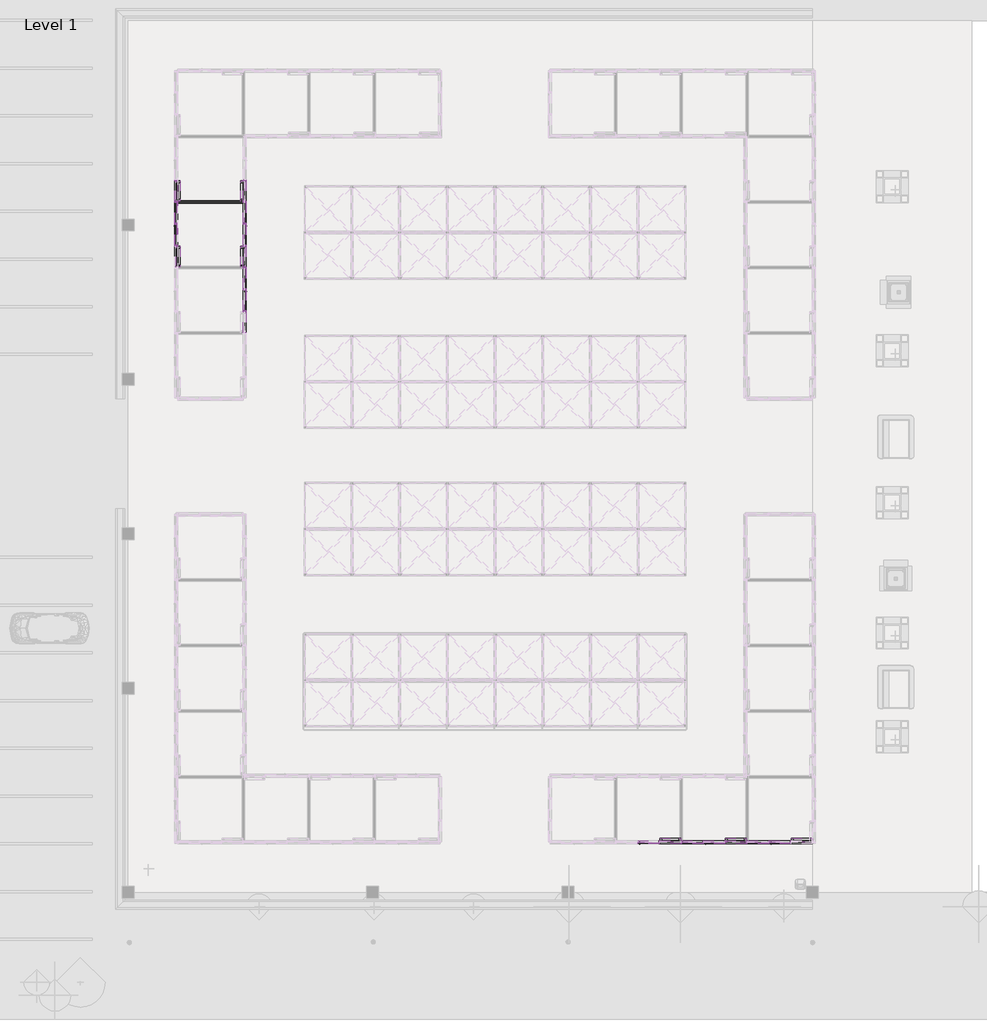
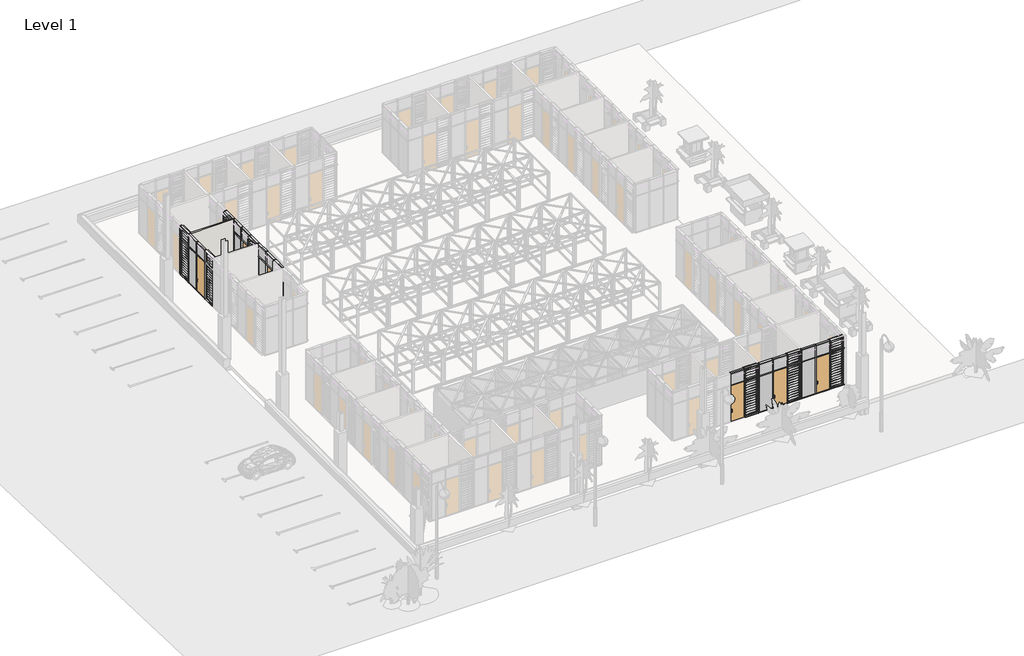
# One storey, part 6 of 32: 89 members, 30 plates, 6 doors, 1 wall.
"""IFC4 building model written with IfcOpenShell, lengths in millimetres."""

from ifc_helpers import new_model, si_unit, frame, origin, place, context, project, spatial, polyline, outline, extrude, transform, mapped, element, save
from components import curtain_wall_door_single_glass_nz_curtain_wall_door_single_2bf20aac, curtain_wall_door_single_glass_nz_curtain_wall_door_single_ff8afd41, rectangular_mullion_50x150mm_c4504768, rectangular_mullion_50x150mm_6c7cb899, rectangular_mullion_50x150mm_b0af8bb0, rectangular_mullion_50x150mm_bbc1c4ea, rectangular_mullion_50x150mm_1a36453b, rectangular_mullion_50x150mm_0d540e17, rectangular_mullion_50x150mm_108cdc6f, rectangular_mullion_50x150mm_52418214, rectangular_mullion_50x150mm_7b3c9b78, curtain_wall_panel_louver_20805_curtain_wall_panel_louver_4af505d4, curtain_wall_panel_louver_20805_curtain_wall_panel_louver_14332c5b, curtain_wall_panel_louver_20805_curtain_wall_panel_louver_e74f52fb, curtain_wall_panel_glass_louver_20805_curtain_wall_panel_036772b2, curtain_wall_panel_glass_louver_20805_curtain_wall_panel_0f8e40a1, curtain_wall_panel_glass_louver_20805_curtain_wall_panel_3228bad0, system_panel_glazed_a5e8ce8b, system_panel_glazed_53fe5bbb, system_panel_solid_585523e5, system_panel_solid_10c0fb46

model = new_model("IFC4")

# Units and contexts
model_context = context("Model", 3, world=origin())
ifc_project = project(units=[si_unit("LENGTHUNIT", "METRE", prefix="MILLI")], contexts=[model_context])

# Site, building, storey
site = spatial("IfcSite", under=ifc_project)
building = spatial("IfcBuilding", under=site)
storey = spatial("IfcBuildingStorey", under=building, Name="Level 1", Elevation=2800.0)

# Doors
placement = place(None, origin())
curtain_wall_door_single_glass_nz_curtain_wall_door_single_shape = curtain_wall_door_single_glass_nz_curtain_wall_door_single_2bf20aac(model_context)
element("IfcDoor", 1, ObjectType="Curtain Wall Door-Single-Glass (NZ) : Curtain Wall Door-Single-Glass (NZ)", at=placement, inside=storey, context=model_context, shape_type="MappedRepresentation", body=[
    mapped(curtain_wall_door_single_glass_nz_curtain_wall_door_single_shape, transform((-83784.8408447, -6055.9199597, 2850.0), x_axis=(0.0, -1.0, 0.0), y_axis=(1.0, 0.0, 0.0), z_axis=(0.0, 0.0, 1.0))),
])
element("IfcDoor", 2, ObjectType="Curtain Wall Door-Single-Glass (NZ) : Curtain Wall Door-Single-Glass (NZ)", at=placement, inside=storey, context=model_context, shape_type="MappedRepresentation", body=[
    mapped(curtain_wall_door_single_glass_nz_curtain_wall_door_single_shape, transform((-83784.8408447, -2755.9199596, 2850.0), x_axis=(0.0, -1.0, 0.0), y_axis=(1.0, 0.0, 0.0), z_axis=(0.0, 0.0, 1.0))),
])
curtain_wall_door_single_glass_nz_curtain_wall_door_single_2_shape = curtain_wall_door_single_glass_nz_curtain_wall_door_single_ff8afd41(model_context)
element("IfcDoor", 3, ObjectType="Curtain Wall Door-Single-Glass (NZ) : Curtain Wall Door-Single-Glass (NZ)", at=placement, inside=storey, context=model_context, shape_type="MappedRepresentation", body=[
    mapped(curtain_wall_door_single_glass_nz_curtain_wall_door_single_2_shape, transform((-60180.3056755, -33305.9199596, 2850.0), x_axis=(1.0, 0.0, 0.0), y_axis=(0.0, 1.0, 0.0), z_axis=(0.0, 0.0, 1.0))),
])
element("IfcDoor", 4, ObjectType="Curtain Wall Door-Single-Glass (NZ) : Curtain Wall Door-Single-Glass (NZ)", at=placement, inside=storey, context=model_context, shape_type="MappedRepresentation", body=[
    mapped(curtain_wall_door_single_glass_nz_curtain_wall_door_single_2_shape, transform((-63480.3056756, -33305.9199596, 2850.0), x_axis=(1.0, 0.0, 0.0), y_axis=(0.0, 1.0, 0.0), z_axis=(0.0, 0.0, 1.0))),
])
element("IfcDoor", 5, ObjectType="Curtain Wall Door-Single-Glass (NZ) : Curtain Wall Door-Single-Glass (NZ)", at=placement, inside=storey, context=model_context, shape_type="MappedRepresentation", body=[
    mapped(curtain_wall_door_single_glass_nz_curtain_wall_door_single_2_shape, transform((-56880.3056756, -33305.9199596, 2850.0), x_axis=(1.0, 0.0, 0.0), y_axis=(0.0, 1.0, 0.0), z_axis=(0.0, 0.0, 1.0))),
])
element("IfcDoor", 6, ObjectType="Curtain Wall Door-Single-Glass (NZ) : Curtain Wall Door-Single-Glass (NZ)", at=placement, inside=storey, context=model_context, shape_type="MappedRepresentation", body=[
    mapped(curtain_wall_door_single_glass_nz_curtain_wall_door_single_2_shape, transform((-87234.8408447, -2755.9199596, 2850.0), x_axis=(0.0, -1.0, 0.0), y_axis=(1.0, 0.0, 0.0), z_axis=(0.0, 0.0, 1.0))),
])

# Members
rectangular_mullion_50x150mm_shape = rectangular_mullion_50x150mm_c4504768(model_context)
element("IfcMember", 7, ObjectType="Rectangular Mullion : 50x150mm", at=placement, inside=storey, context=model_context, shape_type="MappedRepresentation", body=[
    mapped(rectangular_mullion_50x150mm_shape, transform((-83784.8408447, -5480.9199597, 5800.0), x_axis=(0.0, 0.0, 1.0), y_axis=(-1.0, 0.0, 0.0), z_axis=(0.0, -1.0, 0.0))),
])
element("IfcMember", 8, ObjectType="Rectangular Mullion : 50x150mm", at=placement, inside=storey, context=model_context, shape_type="MappedRepresentation", body=[
    mapped(rectangular_mullion_50x150mm_shape, transform((-83784.8408447, -6580.9199596, 5800.0), x_axis=(0.0, 0.0, 1.0), y_axis=(-1.0, 0.0, 0.0), z_axis=(0.0, -1.0, 0.0))),
])
element("IfcMember", 9, ObjectType="Rectangular Mullion : 50x150mm", at=placement, inside=storey, context=model_context, shape_type="MappedRepresentation", body=[
    mapped(rectangular_mullion_50x150mm_shape, transform((-83784.8408447, -4380.9199596, 5800.0), x_axis=(0.0, 0.0, 1.0), y_axis=(-1.0, 0.0, 0.0), z_axis=(0.0, -1.0, 0.0))),
])
element("IfcMember", 10, ObjectType="Rectangular Mullion : 50x150mm", at=placement, inside=storey, context=model_context, shape_type="MappedRepresentation", body=[
    mapped(rectangular_mullion_50x150mm_shape, transform((-83784.8408447, -3280.9199596, 5800.0), x_axis=(0.0, 0.0, 1.0), y_axis=(-1.0, 0.0, 0.0), z_axis=(0.0, -1.0, 0.0))),
])
element("IfcMember", 11, ObjectType="Rectangular Mullion : 50x150mm", at=placement, inside=storey, context=model_context, shape_type="MappedRepresentation", body=[
    mapped(rectangular_mullion_50x150mm_shape, transform((-83784.8408447, -1080.9199596, 5800.0), x_axis=(0.0, 0.0, 1.0), y_axis=(-1.0, 0.0, 0.0), z_axis=(0.0, -1.0, 0.0))),
])
element("IfcMember", 12, ObjectType="Rectangular Mullion : 50x150mm", at=placement, inside=storey, context=model_context, shape_type="MappedRepresentation", body=[
    mapped(rectangular_mullion_50x150mm_shape, transform((-83784.8408447, -2180.9199596, 5800.0), x_axis=(0.0, 0.0, 1.0), y_axis=(-1.0, 0.0, 0.0), z_axis=(0.0, -1.0, 0.0))),
])
rectangular_mullion_50x150mm_2_shape = rectangular_mullion_50x150mm_6c7cb899(model_context)
element("IfcMember", 13, ObjectType="Rectangular Mullion : 50x150mm", at=placement, inside=storey, context=model_context, shape_type="MappedRepresentation", body=[
    mapped(rectangular_mullion_50x150mm_2_shape, transform((-83784.8408447, -5505.9199597, 2800.0), x_axis=(0.0, -1.0, 0.0), y_axis=(-1.0, 0.0, 0.0), z_axis=(0.0, 0.0, -1.0))),
])
element("IfcMember", 14, ObjectType="Rectangular Mullion : 50x150mm", at=placement, inside=storey, context=model_context, shape_type="MappedRepresentation", body=[
    mapped(rectangular_mullion_50x150mm_2_shape, transform((-83784.8408447, -6605.9199596, 2800.0), x_axis=(0.0, -1.0, 0.0), y_axis=(-1.0, 0.0, 0.0), z_axis=(0.0, 0.0, -1.0))),
])
element("IfcMember", 15, ObjectType="Rectangular Mullion : 50x150mm", at=placement, inside=storey, context=model_context, shape_type="MappedRepresentation", body=[
    mapped(rectangular_mullion_50x150mm_2_shape, transform((-83784.8408447, -4405.9199596, 2800.0), x_axis=(0.0, -1.0, 0.0), y_axis=(-1.0, 0.0, 0.0), z_axis=(0.0, 0.0, -1.0))),
])
element("IfcMember", 16, ObjectType="Rectangular Mullion : 50x150mm", at=placement, inside=storey, context=model_context, shape_type="MappedRepresentation", body=[
    mapped(rectangular_mullion_50x150mm_2_shape, transform((-83784.8408447, -7705.9199596, 2800.0), x_axis=(0.0, -1.0, 0.0), y_axis=(-1.0, 0.0, 0.0), z_axis=(0.0, 0.0, -1.0))),
])
element("IfcMember", 17, ObjectType="Rectangular Mullion : 50x150mm", at=placement, inside=storey, context=model_context, shape_type="MappedRepresentation", body=[
    mapped(rectangular_mullion_50x150mm_2_shape, transform((-83784.8408447, -3305.9199596, 2800.0), x_axis=(0.0, -1.0, 0.0), y_axis=(-1.0, 0.0, 0.0), z_axis=(0.0, 0.0, -1.0))),
])
element("IfcMember", 18, ObjectType="Rectangular Mullion : 50x150mm", at=placement, inside=storey, context=model_context, shape_type="MappedRepresentation", body=[
    mapped(rectangular_mullion_50x150mm_2_shape, transform((-83784.8408447, -2205.9199596, 2800.0), x_axis=(0.0, -1.0, 0.0), y_axis=(-1.0, 0.0, 0.0), z_axis=(0.0, 0.0, -1.0))),
])
element("IfcMember", 19, ObjectType="Rectangular Mullion : 50x150mm", at=placement, inside=storey, context=model_context, shape_type="MappedRepresentation", body=[
    mapped(rectangular_mullion_50x150mm_2_shape, transform((-83784.8408447, -1105.9199596, 2800.0), x_axis=(0.0, -1.0, 0.0), y_axis=(-1.0, 0.0, 0.0), z_axis=(0.0, 0.0, -1.0))),
])
element("IfcMember", 20, ObjectType="Rectangular Mullion : 50x150mm", at=placement, inside=storey, context=model_context, shape_type="MappedRepresentation", body=[
    mapped(rectangular_mullion_50x150mm_2_shape, transform((-83784.8408447, -5.9199596, 2800.0), x_axis=(0.0, -1.0, 0.0), y_axis=(-1.0, 0.0, 0.0), z_axis=(0.0, 0.0, -1.0))),
])
rectangular_mullion_50x150mm_3_shape = rectangular_mullion_50x150mm_b0af8bb0(model_context)
element("IfcMember", 21, ObjectType="Rectangular Mullion : 50x150mm", at=placement, inside=storey, context=model_context, shape_type="MappedRepresentation", body=[
    mapped(rectangular_mullion_50x150mm_3_shape, transform((-83784.8408447, -4430.9199596, 2800.0), x_axis=(0.0, 0.0, -1.0), y_axis=(-1.0, 0.0, 0.0), z_axis=(0.0, 1.0, 0.0))),
])
element("IfcMember", 22, ObjectType="Rectangular Mullion : 50x150mm", at=placement, inside=storey, context=model_context, shape_type="MappedRepresentation", body=[
    mapped(rectangular_mullion_50x150mm_3_shape, transform((-83784.8408447, -6630.9199596, 2800.0), x_axis=(0.0, 0.0, -1.0), y_axis=(-1.0, 0.0, 0.0), z_axis=(0.0, 1.0, 0.0))),
])
element("IfcMember", 23, ObjectType="Rectangular Mullion : 50x150mm", at=placement, inside=storey, context=model_context, shape_type="MappedRepresentation", body=[
    mapped(rectangular_mullion_50x150mm_3_shape, transform((-83784.8408447, -5530.9199597, 2800.0), x_axis=(0.0, 0.0, -1.0), y_axis=(-1.0, 0.0, 0.0), z_axis=(0.0, 1.0, 0.0))),
])
element("IfcMember", 24, ObjectType="Rectangular Mullion : 50x150mm", at=placement, inside=storey, context=model_context, shape_type="MappedRepresentation", body=[
    mapped(rectangular_mullion_50x150mm_3_shape, transform((-83784.8408447, -3330.9199596, 2800.0), x_axis=(0.0, 0.0, -1.0), y_axis=(-1.0, 0.0, 0.0), z_axis=(0.0, 1.0, 0.0))),
])
element("IfcMember", 25, ObjectType="Rectangular Mullion : 50x150mm", at=placement, inside=storey, context=model_context, shape_type="MappedRepresentation", body=[
    mapped(rectangular_mullion_50x150mm_3_shape, transform((-83784.8408447, -2230.9199596, 2800.0), x_axis=(0.0, 0.0, -1.0), y_axis=(-1.0, 0.0, 0.0), z_axis=(0.0, 1.0, 0.0))),
])
element("IfcMember", 26, ObjectType="Rectangular Mullion : 50x150mm", at=placement, inside=storey, context=model_context, shape_type="MappedRepresentation", body=[
    mapped(rectangular_mullion_50x150mm_3_shape, transform((-83784.8408447, -30.9199596, 2800.0), x_axis=(0.0, 0.0, -1.0), y_axis=(-1.0, 0.0, 0.0), z_axis=(0.0, 1.0, 0.0))),
])
element("IfcMember", 27, ObjectType="Rectangular Mullion : 50x150mm", at=placement, inside=storey, context=model_context, shape_type="MappedRepresentation", body=[
    mapped(rectangular_mullion_50x150mm_3_shape, transform((-83784.8408447, -1130.9199596, 2800.0), x_axis=(0.0, 0.0, -1.0), y_axis=(-1.0, 0.0, 0.0), z_axis=(0.0, 1.0, 0.0))),
])
rectangular_mullion_50x150mm_4_shape = rectangular_mullion_50x150mm_bbc1c4ea(model_context)
element("IfcMember", 28, ObjectType="Rectangular Mullion : 50x150mm", at=placement, inside=storey, context=model_context, shape_type="MappedRepresentation", body=[
    mapped(rectangular_mullion_50x150mm_4_shape, transform((-83784.8408447, -5505.9199597, 5800.0), x_axis=(0.0, -1.0, 0.0), y_axis=(-1.0, 0.0, 0.0), z_axis=(0.0, 0.0, -1.0))),
])
element("IfcMember", 29, ObjectType="Rectangular Mullion : 50x150mm", at=placement, inside=storey, context=model_context, shape_type="MappedRepresentation", body=[
    mapped(rectangular_mullion_50x150mm_4_shape, transform((-83784.8408447, -6605.9199596, 5800.0), x_axis=(0.0, -1.0, 0.0), y_axis=(-1.0, 0.0, 0.0), z_axis=(0.0, 0.0, -1.0))),
])
element("IfcMember", 30, ObjectType="Rectangular Mullion : 50x150mm", at=placement, inside=storey, context=model_context, shape_type="MappedRepresentation", body=[
    mapped(rectangular_mullion_50x150mm_4_shape, transform((-83784.8408447, -4405.9199596, 5800.0), x_axis=(0.0, -1.0, 0.0), y_axis=(-1.0, 0.0, 0.0), z_axis=(0.0, 0.0, -1.0))),
])
element("IfcMember", 31, ObjectType="Rectangular Mullion : 50x150mm", at=placement, inside=storey, context=model_context, shape_type="MappedRepresentation", body=[
    mapped(rectangular_mullion_50x150mm_4_shape, transform((-83784.8408447, -3305.9199596, 5800.0), x_axis=(0.0, -1.0, 0.0), y_axis=(-1.0, 0.0, 0.0), z_axis=(0.0, 0.0, -1.0))),
])
element("IfcMember", 32, ObjectType="Rectangular Mullion : 50x150mm", at=placement, inside=storey, context=model_context, shape_type="MappedRepresentation", body=[
    mapped(rectangular_mullion_50x150mm_4_shape, transform((-83784.8408447, -2205.9199596, 5800.0), x_axis=(0.0, -1.0, 0.0), y_axis=(-1.0, 0.0, 0.0), z_axis=(0.0, 0.0, -1.0))),
])
element("IfcMember", 33, ObjectType="Rectangular Mullion : 50x150mm", at=placement, inside=storey, context=model_context, shape_type="MappedRepresentation", body=[
    mapped(rectangular_mullion_50x150mm_4_shape, transform((-83784.8408447, -1105.9199596, 5800.0), x_axis=(0.0, -1.0, 0.0), y_axis=(-1.0, 0.0, 0.0), z_axis=(0.0, 0.0, -1.0))),
])
element("IfcMember", 34, ObjectType="Rectangular Mullion : 50x150mm", at=placement, inside=storey, context=model_context, shape_type="MappedRepresentation", body=[
    mapped(rectangular_mullion_50x150mm_4_shape, transform((-83784.8408447, -5.9199596, 5800.0), x_axis=(0.0, -1.0, 0.0), y_axis=(-1.0, 0.0, 0.0), z_axis=(0.0, 0.0, -1.0))),
])
rectangular_mullion_50x150mm_5_shape = rectangular_mullion_50x150mm_1a36453b(model_context)
element("IfcMember", 35, ObjectType="Rectangular Mullion : 50x150mm", at=placement, inside=storey, context=model_context, shape_type="MappedRepresentation", body=[
    mapped(rectangular_mullion_50x150mm_5_shape, transform((-83784.8408447, -4380.9199596, 6800.0), x_axis=(0.0, 0.0, 1.0), y_axis=(-1.0, 0.0, 0.0), z_axis=(0.0, -1.0, 0.0))),
])
element("IfcMember", 36, ObjectType="Rectangular Mullion : 50x150mm", at=placement, inside=storey, context=model_context, shape_type="MappedRepresentation", body=[
    mapped(rectangular_mullion_50x150mm_5_shape, transform((-83784.8408447, -7680.9199596, 6800.0), x_axis=(0.0, 0.0, 1.0), y_axis=(-1.0, 0.0, 0.0), z_axis=(0.0, -1.0, 0.0))),
])
element("IfcMember", 37, ObjectType="Rectangular Mullion : 50x150mm", at=placement, inside=storey, context=model_context, shape_type="MappedRepresentation", body=[
    mapped(rectangular_mullion_50x150mm_5_shape, transform((-83784.8408447, -6580.9199596, 6800.0), x_axis=(0.0, 0.0, 1.0), y_axis=(-1.0, 0.0, 0.0), z_axis=(0.0, -1.0, 0.0))),
])
element("IfcMember", 38, ObjectType="Rectangular Mullion : 50x150mm", at=placement, inside=storey, context=model_context, shape_type="MappedRepresentation", body=[
    mapped(rectangular_mullion_50x150mm_5_shape, transform((-83784.8408447, -5480.9199597, 6800.0), x_axis=(0.0, 0.0, 1.0), y_axis=(-1.0, 0.0, 0.0), z_axis=(0.0, -1.0, 0.0))),
])
element("IfcMember", 39, ObjectType="Rectangular Mullion : 50x150mm", at=placement, inside=storey, context=model_context, shape_type="MappedRepresentation", body=[
    mapped(rectangular_mullion_50x150mm_5_shape, transform((-83784.8408447, -3280.9199596, 6800.0), x_axis=(0.0, 0.0, 1.0), y_axis=(-1.0, 0.0, 0.0), z_axis=(0.0, -1.0, 0.0))),
])
element("IfcMember", 40, ObjectType="Rectangular Mullion : 50x150mm", at=placement, inside=storey, context=model_context, shape_type="MappedRepresentation", body=[
    mapped(rectangular_mullion_50x150mm_5_shape, transform((-83784.8408447, -2180.9199596, 6800.0), x_axis=(0.0, 0.0, 1.0), y_axis=(-1.0, 0.0, 0.0), z_axis=(0.0, -1.0, 0.0))),
])
element("IfcMember", 41, ObjectType="Rectangular Mullion : 50x150mm", at=placement, inside=storey, context=model_context, shape_type="MappedRepresentation", body=[
    mapped(rectangular_mullion_50x150mm_5_shape, transform((-83784.8408447, -1080.9199596, 6800.0), x_axis=(0.0, 0.0, 1.0), y_axis=(-1.0, 0.0, 0.0), z_axis=(0.0, -1.0, 0.0))),
])
element("IfcMember", 42, ObjectType="Rectangular Mullion : 50x150mm", at=placement, inside=storey, context=model_context, shape_type="MappedRepresentation", body=[
    mapped(rectangular_mullion_50x150mm_4_shape, transform((-60730.3056755, -33305.9199596, 5800.0), x_axis=(1.0, 0.0, 0.0), y_axis=(0.0, -1.0, 0.0), z_axis=(0.0, 0.0, -1.0))),
])
element("IfcMember", 43, ObjectType="Rectangular Mullion : 50x150mm", at=placement, inside=storey, context=model_context, shape_type="MappedRepresentation", body=[
    mapped(rectangular_mullion_50x150mm_4_shape, transform((-59630.3056756, -33305.9199596, 5800.0), x_axis=(1.0, 0.0, 0.0), y_axis=(0.0, -1.0, 0.0), z_axis=(0.0, 0.0, -1.0))),
])
element("IfcMember", 44, ObjectType="Rectangular Mullion : 50x150mm", at=placement, inside=storey, context=model_context, shape_type="MappedRepresentation", body=[
    mapped(rectangular_mullion_50x150mm_4_shape, transform((-61830.3056756, -33305.9199596, 5800.0), x_axis=(1.0, 0.0, 0.0), y_axis=(0.0, -1.0, 0.0), z_axis=(0.0, 0.0, -1.0))),
])
element("IfcMember", 45, ObjectType="Rectangular Mullion : 50x150mm", at=placement, inside=storey, context=model_context, shape_type="MappedRepresentation", body=[
    mapped(rectangular_mullion_50x150mm_4_shape, transform((-58530.3056756, -33305.9199596, 5800.0), x_axis=(1.0, 0.0, 0.0), y_axis=(0.0, -1.0, 0.0), z_axis=(0.0, 0.0, -1.0))),
])
element("IfcMember", 46, ObjectType="Rectangular Mullion : 50x150mm", at=placement, inside=storey, context=model_context, shape_type="MappedRepresentation", body=[
    mapped(rectangular_mullion_50x150mm_4_shape, transform((-62930.3056756, -33305.9199596, 5800.0), x_axis=(1.0, 0.0, 0.0), y_axis=(0.0, -1.0, 0.0), z_axis=(0.0, 0.0, -1.0))),
])
element("IfcMember", 47, ObjectType="Rectangular Mullion : 50x150mm", at=placement, inside=storey, context=model_context, shape_type="MappedRepresentation", body=[
    mapped(rectangular_mullion_50x150mm_4_shape, transform((-57430.3056756, -33305.9199596, 5800.0), x_axis=(1.0, 0.0, 0.0), y_axis=(0.0, -1.0, 0.0), z_axis=(0.0, 0.0, -1.0))),
])
element("IfcMember", 48, ObjectType="Rectangular Mullion : 50x150mm", at=placement, inside=storey, context=model_context, shape_type="MappedRepresentation", body=[
    mapped(rectangular_mullion_50x150mm_4_shape, transform((-56330.3056756, -33305.9199596, 5800.0), x_axis=(1.0, 0.0, 0.0), y_axis=(0.0, -1.0, 0.0), z_axis=(0.0, 0.0, -1.0))),
])
element("IfcMember", 49, ObjectType="Rectangular Mullion : 50x150mm", at=placement, inside=storey, context=model_context, shape_type="MappedRepresentation", body=[
    mapped(rectangular_mullion_50x150mm_4_shape, transform((-87234.8408447, -3305.9199596, 5800.0), x_axis=(0.0, -1.0, 0.0), y_axis=(-1.0, 0.0, 0.0), z_axis=(0.0, 0.0, -1.0))),
])
element("IfcMember", 50, ObjectType="Rectangular Mullion : 50x150mm", at=placement, inside=storey, context=model_context, shape_type="MappedRepresentation", body=[
    mapped(rectangular_mullion_50x150mm_4_shape, transform((-87234.8408447, -2205.9199596, 5800.0), x_axis=(0.0, -1.0, 0.0), y_axis=(-1.0, 0.0, 0.0), z_axis=(0.0, 0.0, -1.0))),
])
element("IfcMember", 51, ObjectType="Rectangular Mullion : 50x150mm", at=placement, inside=storey, context=model_context, shape_type="MappedRepresentation", body=[
    mapped(rectangular_mullion_50x150mm_4_shape, transform((-87234.8408447, -1105.9199596, 5800.0), x_axis=(0.0, -1.0, 0.0), y_axis=(-1.0, 0.0, 0.0), z_axis=(0.0, 0.0, -1.0))),
])
element("IfcMember", 52, ObjectType="Rectangular Mullion : 50x150mm", at=placement, inside=storey, context=model_context, shape_type="MappedRepresentation", body=[
    mapped(rectangular_mullion_50x150mm_4_shape, transform((-87234.8408447, -5.9199596, 5800.0), x_axis=(0.0, -1.0, 0.0), y_axis=(-1.0, 0.0, 0.0), z_axis=(0.0, 0.0, -1.0))),
])
element("IfcMember", 53, ObjectType="Rectangular Mullion : 50x150mm", at=placement, inside=storey, context=model_context, shape_type="MappedRepresentation", body=[
    mapped(rectangular_mullion_50x150mm_2_shape, transform((-60730.3056755, -33305.9199596, 2800.0), x_axis=(1.0, 0.0, 0.0), y_axis=(0.0, -1.0, 0.0), z_axis=(0.0, 0.0, -1.0))),
])
element("IfcMember", 54, ObjectType="Rectangular Mullion : 50x150mm", at=placement, inside=storey, context=model_context, shape_type="MappedRepresentation", body=[
    mapped(rectangular_mullion_50x150mm_2_shape, transform((-59630.3056756, -33305.9199596, 2800.0), x_axis=(1.0, 0.0, 0.0), y_axis=(0.0, -1.0, 0.0), z_axis=(0.0, 0.0, -1.0))),
])
element("IfcMember", 55, ObjectType="Rectangular Mullion : 50x150mm", at=placement, inside=storey, context=model_context, shape_type="MappedRepresentation", body=[
    mapped(rectangular_mullion_50x150mm_2_shape, transform((-61830.3056756, -33305.9199596, 2800.0), x_axis=(1.0, 0.0, 0.0), y_axis=(0.0, -1.0, 0.0), z_axis=(0.0, 0.0, -1.0))),
])
element("IfcMember", 56, ObjectType="Rectangular Mullion : 50x150mm", at=placement, inside=storey, context=model_context, shape_type="MappedRepresentation", body=[
    mapped(rectangular_mullion_50x150mm_2_shape, transform((-58530.3056756, -33305.9199596, 2800.0), x_axis=(1.0, 0.0, 0.0), y_axis=(0.0, -1.0, 0.0), z_axis=(0.0, 0.0, -1.0))),
])
element("IfcMember", 57, ObjectType="Rectangular Mullion : 50x150mm", at=placement, inside=storey, context=model_context, shape_type="MappedRepresentation", body=[
    mapped(rectangular_mullion_50x150mm_2_shape, transform((-62930.3056756, -33305.9199596, 2800.0), x_axis=(1.0, 0.0, 0.0), y_axis=(0.0, -1.0, 0.0), z_axis=(0.0, 0.0, -1.0))),
])
element("IfcMember", 58, ObjectType="Rectangular Mullion : 50x150mm", at=placement, inside=storey, context=model_context, shape_type="MappedRepresentation", body=[
    mapped(rectangular_mullion_50x150mm_2_shape, transform((-57430.3056756, -33305.9199596, 2800.0), x_axis=(1.0, 0.0, 0.0), y_axis=(0.0, -1.0, 0.0), z_axis=(0.0, 0.0, -1.0))),
])
element("IfcMember", 59, ObjectType="Rectangular Mullion : 50x150mm", at=placement, inside=storey, context=model_context, shape_type="MappedRepresentation", body=[
    mapped(rectangular_mullion_50x150mm_2_shape, transform((-56330.3056756, -33305.9199596, 2800.0), x_axis=(1.0, 0.0, 0.0), y_axis=(0.0, -1.0, 0.0), z_axis=(0.0, 0.0, -1.0))),
])
element("IfcMember", 60, ObjectType="Rectangular Mullion : 50x150mm", at=placement, inside=storey, context=model_context, shape_type="MappedRepresentation", body=[
    mapped(rectangular_mullion_50x150mm_2_shape, transform((-87234.8408447, -3305.9199596, 2800.0), x_axis=(0.0, -1.0, 0.0), y_axis=(-1.0, 0.0, 0.0), z_axis=(0.0, 0.0, -1.0))),
])
element("IfcMember", 61, ObjectType="Rectangular Mullion : 50x150mm", at=placement, inside=storey, context=model_context, shape_type="MappedRepresentation", body=[
    mapped(rectangular_mullion_50x150mm_2_shape, transform((-87234.8408447, -2205.9199596, 2800.0), x_axis=(0.0, -1.0, 0.0), y_axis=(-1.0, 0.0, 0.0), z_axis=(0.0, 0.0, -1.0))),
])
element("IfcMember", 62, ObjectType="Rectangular Mullion : 50x150mm", at=placement, inside=storey, context=model_context, shape_type="MappedRepresentation", body=[
    mapped(rectangular_mullion_50x150mm_2_shape, transform((-87234.8408447, -1105.9199596, 2800.0), x_axis=(0.0, -1.0, 0.0), y_axis=(-1.0, 0.0, 0.0), z_axis=(0.0, 0.0, -1.0))),
])
element("IfcMember", 63, ObjectType="Rectangular Mullion : 50x150mm", at=placement, inside=storey, context=model_context, shape_type="MappedRepresentation", body=[
    mapped(rectangular_mullion_50x150mm_2_shape, transform((-87234.8408447, -5.9199596, 2800.0), x_axis=(0.0, -1.0, 0.0), y_axis=(-1.0, 0.0, 0.0), z_axis=(0.0, 0.0, -1.0))),
])
rectangular_mullion_50x150mm_6_shape = rectangular_mullion_50x150mm_0d540e17(model_context)
element("IfcMember", 64, ObjectType="Rectangular Mullion : 50x150mm", at=placement, inside=storey, context=model_context, shape_type="MappedRepresentation", body=[
    mapped(rectangular_mullion_50x150mm_6_shape, transform((-60755.3056755, -33305.9199596, 5800.0), x_axis=(0.0, 0.0, 1.0), y_axis=(0.0, -1.0, 0.0), z_axis=(1.0, 0.0, 0.0))),
])
element("IfcMember", 65, ObjectType="Rectangular Mullion : 50x150mm", at=placement, inside=storey, context=model_context, shape_type="MappedRepresentation", body=[
    mapped(rectangular_mullion_50x150mm_6_shape, transform((-57455.3056756, -33305.9199596, 5800.0), x_axis=(0.0, 0.0, 1.0), y_axis=(0.0, -1.0, 0.0), z_axis=(1.0, 0.0, 0.0))),
])
element("IfcMember", 66, ObjectType="Rectangular Mullion : 50x150mm", at=placement, inside=storey, context=model_context, shape_type="MappedRepresentation", body=[
    mapped(rectangular_mullion_50x150mm_6_shape, transform((-58555.3056756, -33305.9199596, 5800.0), x_axis=(0.0, 0.0, 1.0), y_axis=(0.0, -1.0, 0.0), z_axis=(1.0, 0.0, 0.0))),
])
element("IfcMember", 67, ObjectType="Rectangular Mullion : 50x150mm", at=placement, inside=storey, context=model_context, shape_type="MappedRepresentation", body=[
    mapped(rectangular_mullion_50x150mm_6_shape, transform((-59655.3056756, -33305.9199596, 5800.0), x_axis=(0.0, 0.0, 1.0), y_axis=(0.0, -1.0, 0.0), z_axis=(1.0, 0.0, 0.0))),
])
element("IfcMember", 68, ObjectType="Rectangular Mullion : 50x150mm", at=placement, inside=storey, context=model_context, shape_type="MappedRepresentation", body=[
    mapped(rectangular_mullion_50x150mm_6_shape, transform((-61855.3056756, -33305.9199596, 5800.0), x_axis=(0.0, 0.0, 1.0), y_axis=(0.0, -1.0, 0.0), z_axis=(1.0, 0.0, 0.0))),
])
element("IfcMember", 69, ObjectType="Rectangular Mullion : 50x150mm", at=placement, inside=storey, context=model_context, shape_type="MappedRepresentation", body=[
    mapped(rectangular_mullion_50x150mm_6_shape, transform((-62955.3056756, -33305.9199596, 5800.0), x_axis=(0.0, 0.0, 1.0), y_axis=(0.0, -1.0, 0.0), z_axis=(1.0, 0.0, 0.0))),
])
element("IfcMember", 70, ObjectType="Rectangular Mullion : 50x150mm", at=placement, inside=storey, context=model_context, shape_type="MappedRepresentation", body=[
    mapped(rectangular_mullion_50x150mm_6_shape, transform((-56355.3056756, -33305.9199596, 5800.0), x_axis=(0.0, 0.0, 1.0), y_axis=(0.0, -1.0, 0.0), z_axis=(1.0, 0.0, 0.0))),
])
element("IfcMember", 71, ObjectType="Rectangular Mullion : 50x150mm", at=placement, inside=storey, context=model_context, shape_type="MappedRepresentation", body=[
    mapped(rectangular_mullion_50x150mm_6_shape, transform((-87234.8408447, -3280.9199596, 5800.0), x_axis=(0.0, 0.0, 1.0), y_axis=(-1.0, 0.0, 0.0), z_axis=(0.0, -1.0, 0.0))),
])
element("IfcMember", 72, ObjectType="Rectangular Mullion : 50x150mm", at=placement, inside=storey, context=model_context, shape_type="MappedRepresentation", body=[
    mapped(rectangular_mullion_50x150mm_6_shape, transform((-87234.8408447, -1080.9199596, 5800.0), x_axis=(0.0, 0.0, 1.0), y_axis=(-1.0, 0.0, 0.0), z_axis=(0.0, -1.0, 0.0))),
])
element("IfcMember", 73, ObjectType="Rectangular Mullion : 50x150mm", at=placement, inside=storey, context=model_context, shape_type="MappedRepresentation", body=[
    mapped(rectangular_mullion_50x150mm_6_shape, transform((-87234.8408447, -2180.9199596, 5800.0), x_axis=(0.0, 0.0, 1.0), y_axis=(-1.0, 0.0, 0.0), z_axis=(0.0, -1.0, 0.0))),
])
rectangular_mullion_50x150mm_7_shape = rectangular_mullion_50x150mm_108cdc6f(model_context)
element("IfcMember", 74, ObjectType="Rectangular Mullion : 50x150mm", at=placement, inside=storey, context=model_context, shape_type="MappedRepresentation", body=[
    mapped(rectangular_mullion_50x150mm_7_shape, transform((-61805.3056756, -33305.9199596, 2800.0), x_axis=(0.0, 0.0, -1.0), y_axis=(0.0, -1.0, 0.0), z_axis=(-1.0, 0.0, 0.0))),
])
element("IfcMember", 75, ObjectType="Rectangular Mullion : 50x150mm", at=placement, inside=storey, context=model_context, shape_type="MappedRepresentation", body=[
    mapped(rectangular_mullion_50x150mm_7_shape, transform((-58505.3056756, -33305.9199596, 2800.0), x_axis=(0.0, 0.0, -1.0), y_axis=(0.0, -1.0, 0.0), z_axis=(-1.0, 0.0, 0.0))),
])
element("IfcMember", 76, ObjectType="Rectangular Mullion : 50x150mm", at=placement, inside=storey, context=model_context, shape_type="MappedRepresentation", body=[
    mapped(rectangular_mullion_50x150mm_7_shape, transform((-59605.3056756, -33305.9199596, 2800.0), x_axis=(0.0, 0.0, -1.0), y_axis=(0.0, -1.0, 0.0), z_axis=(-1.0, 0.0, 0.0))),
])
element("IfcMember", 77, ObjectType="Rectangular Mullion : 50x150mm", at=placement, inside=storey, context=model_context, shape_type="MappedRepresentation", body=[
    mapped(rectangular_mullion_50x150mm_7_shape, transform((-60705.3056755, -33305.9199596, 2800.0), x_axis=(0.0, 0.0, -1.0), y_axis=(0.0, -1.0, 0.0), z_axis=(-1.0, 0.0, 0.0))),
])
element("IfcMember", 78, ObjectType="Rectangular Mullion : 50x150mm", at=placement, inside=storey, context=model_context, shape_type="MappedRepresentation", body=[
    mapped(rectangular_mullion_50x150mm_7_shape, transform((-62905.3056756, -33305.9199596, 2800.0), x_axis=(0.0, 0.0, -1.0), y_axis=(0.0, -1.0, 0.0), z_axis=(-1.0, 0.0, 0.0))),
])
element("IfcMember", 79, ObjectType="Rectangular Mullion : 50x150mm", at=placement, inside=storey, context=model_context, shape_type="MappedRepresentation", body=[
    mapped(rectangular_mullion_50x150mm_7_shape, transform((-57405.3056756, -33305.9199596, 2800.0), x_axis=(0.0, 0.0, -1.0), y_axis=(0.0, -1.0, 0.0), z_axis=(-1.0, 0.0, 0.0))),
])
element("IfcMember", 80, ObjectType="Rectangular Mullion : 50x150mm", at=placement, inside=storey, context=model_context, shape_type="MappedRepresentation", body=[
    mapped(rectangular_mullion_50x150mm_7_shape, transform((-87234.8408447, -3330.9199596, 2800.0), x_axis=(0.0, 0.0, -1.0), y_axis=(-1.0, 0.0, 0.0), z_axis=(0.0, 1.0, 0.0))),
])
element("IfcMember", 81, ObjectType="Rectangular Mullion : 50x150mm", at=placement, inside=storey, context=model_context, shape_type="MappedRepresentation", body=[
    mapped(rectangular_mullion_50x150mm_7_shape, transform((-87234.8408447, -2230.9199596, 2800.0), x_axis=(0.0, 0.0, -1.0), y_axis=(-1.0, 0.0, 0.0), z_axis=(0.0, 1.0, 0.0))),
])
element("IfcMember", 82, ObjectType="Rectangular Mullion : 50x150mm", at=placement, inside=storey, context=model_context, shape_type="MappedRepresentation", body=[
    mapped(rectangular_mullion_50x150mm_7_shape, transform((-87234.8408447, -30.9199596, 2800.0), x_axis=(0.0, 0.0, -1.0), y_axis=(-1.0, 0.0, 0.0), z_axis=(0.0, 1.0, 0.0))),
])
element("IfcMember", 83, ObjectType="Rectangular Mullion : 50x150mm", at=placement, inside=storey, context=model_context, shape_type="MappedRepresentation", body=[
    mapped(rectangular_mullion_50x150mm_7_shape, transform((-87234.8408447, -1130.9199596, 2800.0), x_axis=(0.0, 0.0, -1.0), y_axis=(-1.0, 0.0, 0.0), z_axis=(0.0, 1.0, 0.0))),
])
element("IfcMember", 84, ObjectType="Rectangular Mullion : 50x150mm", at=placement, inside=storey, context=model_context, shape_type="MappedRepresentation", body=[
    mapped(rectangular_mullion_50x150mm_5_shape, transform((-61855.3056756, -33305.9199596, 6800.0), x_axis=(0.0, 0.0, 1.0), y_axis=(0.0, -1.0, 0.0), z_axis=(1.0, 0.0, 0.0))),
])
element("IfcMember", 85, ObjectType="Rectangular Mullion : 50x150mm", at=placement, inside=storey, context=model_context, shape_type="MappedRepresentation", body=[
    mapped(rectangular_mullion_50x150mm_5_shape, transform((-56355.3056756, -33305.9199596, 6800.0), x_axis=(0.0, 0.0, 1.0), y_axis=(0.0, -1.0, 0.0), z_axis=(1.0, 0.0, 0.0))),
])
element("IfcMember", 86, ObjectType="Rectangular Mullion : 50x150mm", at=placement, inside=storey, context=model_context, shape_type="MappedRepresentation", body=[
    mapped(rectangular_mullion_50x150mm_5_shape, transform((-58555.3056756, -33305.9199596, 6800.0), x_axis=(0.0, 0.0, 1.0), y_axis=(0.0, -1.0, 0.0), z_axis=(1.0, 0.0, 0.0))),
])
element("IfcMember", 87, ObjectType="Rectangular Mullion : 50x150mm", at=placement, inside=storey, context=model_context, shape_type="MappedRepresentation", body=[
    mapped(rectangular_mullion_50x150mm_5_shape, transform((-59655.3056756, -33305.9199596, 6800.0), x_axis=(0.0, 0.0, 1.0), y_axis=(0.0, -1.0, 0.0), z_axis=(1.0, 0.0, 0.0))),
])
element("IfcMember", 88, ObjectType="Rectangular Mullion : 50x150mm", at=placement, inside=storey, context=model_context, shape_type="MappedRepresentation", body=[
    mapped(rectangular_mullion_50x150mm_5_shape, transform((-60755.3056755, -33305.9199596, 6800.0), x_axis=(0.0, 0.0, 1.0), y_axis=(0.0, -1.0, 0.0), z_axis=(1.0, 0.0, 0.0))),
])
element("IfcMember", 89, ObjectType="Rectangular Mullion : 50x150mm", at=placement, inside=storey, context=model_context, shape_type="MappedRepresentation", body=[
    mapped(rectangular_mullion_50x150mm_5_shape, transform((-62955.3056756, -33305.9199596, 6800.0), x_axis=(0.0, 0.0, 1.0), y_axis=(0.0, -1.0, 0.0), z_axis=(1.0, 0.0, 0.0))),
])
element("IfcMember", 90, ObjectType="Rectangular Mullion : 50x150mm", at=placement, inside=storey, context=model_context, shape_type="MappedRepresentation", body=[
    mapped(rectangular_mullion_50x150mm_5_shape, transform((-57455.3056756, -33305.9199596, 6800.0), x_axis=(0.0, 0.0, 1.0), y_axis=(0.0, -1.0, 0.0), z_axis=(1.0, 0.0, 0.0))),
])
element("IfcMember", 91, ObjectType="Rectangular Mullion : 50x150mm", at=placement, inside=storey, context=model_context, shape_type="MappedRepresentation", body=[
    mapped(rectangular_mullion_50x150mm_5_shape, transform((-87234.8408447, -3280.9199596, 6800.0), x_axis=(0.0, 0.0, 1.0), y_axis=(-1.0, 0.0, 0.0), z_axis=(0.0, -1.0, 0.0))),
])
element("IfcMember", 92, ObjectType="Rectangular Mullion : 50x150mm", at=placement, inside=storey, context=model_context, shape_type="MappedRepresentation", body=[
    mapped(rectangular_mullion_50x150mm_5_shape, transform((-87234.8408447, -2180.9199596, 6800.0), x_axis=(0.0, 0.0, 1.0), y_axis=(-1.0, 0.0, 0.0), z_axis=(0.0, -1.0, 0.0))),
])
element("IfcMember", 93, ObjectType="Rectangular Mullion : 50x150mm", at=placement, inside=storey, context=model_context, shape_type="MappedRepresentation", body=[
    mapped(rectangular_mullion_50x150mm_5_shape, transform((-87234.8408447, -1080.9199596, 6800.0), x_axis=(0.0, 0.0, 1.0), y_axis=(-1.0, 0.0, 0.0), z_axis=(0.0, -1.0, 0.0))),
])
rectangular_mullion_50x150mm_8_shape = rectangular_mullion_50x150mm_52418214(model_context)
element("IfcMember", 94, ObjectType="Rectangular Mullion : 50x150mm", at=placement, inside=storey, context=model_context, shape_type="MappedRepresentation", body=[
    mapped(rectangular_mullion_50x150mm_8_shape, transform((-55230.3056755, -33305.9199596, 5800.0), x_axis=(0.0, 0.0, 1.0), y_axis=(0.0, -1.0, 0.0), z_axis=(1.0, 0.0, 0.0))),
])
rectangular_mullion_50x150mm_9_shape = rectangular_mullion_50x150mm_7b3c9b78(model_context)
element("IfcMember", 95, ObjectType="Rectangular Mullion : 50x150mm", at=placement, inside=storey, context=model_context, shape_type="MappedRepresentation", body=[
    mapped(rectangular_mullion_50x150mm_9_shape, transform((-56305.3056756, -33305.9199596, 2800.0), x_axis=(0.0, 0.0, -1.0), y_axis=(0.0, -1.0, 0.0), z_axis=(-1.0, 0.0, 0.0))),
])

# Plates
curtain_wall_panel_louver_20805_curtain_wall_panel_louver_shape = curtain_wall_panel_louver_20805_curtain_wall_panel_louver_4af505d4(model_context)
element("IfcPlate", 96, ObjectType="Curtain_wall_panel_-_Louver_20805 : Curtain_wall_panel_-_Louver_20805", at=placement, inside=storey, context=model_context, shape_type="MappedRepresentation", body=[
    mapped(curtain_wall_panel_louver_20805_curtain_wall_panel_louver_shape, transform((-83784.8408447, -3855.9199596, 5825.0), x_axis=(0.0, -1.0, 0.0), y_axis=(1.0, 0.0, 0.0), z_axis=(0.0, 0.0, 1.0))),
])
element("IfcPlate", 97, ObjectType="Curtain_wall_panel_-_Louver_20805 : Curtain_wall_panel_-_Louver_20805", at=placement, inside=storey, context=model_context, shape_type="MappedRepresentation", body=[
    mapped(curtain_wall_panel_louver_20805_curtain_wall_panel_louver_shape, transform((-83784.8408447, -555.9199596, 5825.0), x_axis=(0.0, -1.0, 0.0), y_axis=(1.0, 0.0, 0.0), z_axis=(0.0, 0.0, 1.0))),
])
curtain_wall_panel_louver_20805_curtain_wall_panel_louver_2_shape = curtain_wall_panel_louver_20805_curtain_wall_panel_louver_14332c5b(model_context)
element("IfcPlate", 98, ObjectType="Curtain_wall_panel_-_Louver_20805 : Curtain_wall_panel_-_Louver_20805", at=placement, inside=storey, context=model_context, shape_type="MappedRepresentation", body=[
    mapped(curtain_wall_panel_louver_20805_curtain_wall_panel_louver_2_shape, transform((-59080.3056756, -33305.9199596, 5825.0), x_axis=(1.0, 0.0, 0.0), y_axis=(0.0, 1.0, 0.0), z_axis=(0.0, 0.0, 1.0))),
])
element("IfcPlate", 99, ObjectType="Curtain_wall_panel_-_Louver_20805 : Curtain_wall_panel_-_Louver_20805", at=placement, inside=storey, context=model_context, shape_type="MappedRepresentation", body=[
    mapped(curtain_wall_panel_louver_20805_curtain_wall_panel_louver_2_shape, transform((-62380.3056756, -33305.9199596, 5825.0), x_axis=(1.0, 0.0, 0.0), y_axis=(0.0, 1.0, 0.0), z_axis=(0.0, 0.0, 1.0))),
])
element("IfcPlate", 100, ObjectType="Curtain_wall_panel_-_Louver_20805 : Curtain_wall_panel_-_Louver_20805", at=placement, inside=storey, context=model_context, shape_type="MappedRepresentation", body=[
    mapped(curtain_wall_panel_louver_20805_curtain_wall_panel_louver_2_shape, transform((-87234.8408447, -3855.9199596, 5825.0), x_axis=(0.0, -1.0, 0.0), y_axis=(1.0, 0.0, 0.0), z_axis=(0.0, 0.0, 1.0))),
])
element("IfcPlate", 101, ObjectType="Curtain_wall_panel_-_Louver_20805 : Curtain_wall_panel_-_Louver_20805", at=placement, inside=storey, context=model_context, shape_type="MappedRepresentation", body=[
    mapped(curtain_wall_panel_louver_20805_curtain_wall_panel_louver_2_shape, transform((-87234.8408447, -555.9199596, 5825.0), x_axis=(0.0, -1.0, 0.0), y_axis=(1.0, 0.0, 0.0), z_axis=(0.0, 0.0, 1.0))),
])
curtain_wall_panel_louver_20805_curtain_wall_panel_louver_3_shape = curtain_wall_panel_louver_20805_curtain_wall_panel_louver_e74f52fb(model_context)
element("IfcPlate", 102, ObjectType="Curtain_wall_panel_-_Louver_20805 : Curtain_wall_panel_-_Louver_20805", at=placement, inside=storey, context=model_context, shape_type="MappedRepresentation", body=[
    mapped(curtain_wall_panel_louver_20805_curtain_wall_panel_louver_3_shape, transform((-55767.8056755, -33305.9199596, 5825.0), x_axis=(1.0, 0.0, 0.0), y_axis=(0.0, 1.0, 0.0), z_axis=(0.0, 0.0, 1.0))),
])
curtain_wall_panel_glass_louver_20805_curtain_wall_panel_shape = curtain_wall_panel_glass_louver_20805_curtain_wall_panel_036772b2(model_context)
element("IfcPlate", 103, ObjectType="Curtain_wall_panel_glass_Louver_20805 : Curtain_wall_panel_glass_Louver_20805", at=placement, inside=storey, context=model_context, shape_type="MappedRepresentation", body=[
    mapped(curtain_wall_panel_glass_louver_20805_curtain_wall_panel_shape, transform((-83784.8408447, -3855.9199596, 2850.0), x_axis=(0.0, -1.0, 0.0), y_axis=(1.0, 0.0, 0.0), z_axis=(0.0, 0.0, 1.0))),
])
element("IfcPlate", 104, ObjectType="Curtain_wall_panel_glass_Louver_20805 : Curtain_wall_panel_glass_Louver_20805", at=placement, inside=storey, context=model_context, shape_type="MappedRepresentation", body=[
    mapped(curtain_wall_panel_glass_louver_20805_curtain_wall_panel_shape, transform((-83784.8408447, -555.9199596, 2850.0), x_axis=(0.0, -1.0, 0.0), y_axis=(1.0, 0.0, 0.0), z_axis=(0.0, 0.0, 1.0))),
])
curtain_wall_panel_glass_louver_20805_curtain_wall_panel_2_shape = curtain_wall_panel_glass_louver_20805_curtain_wall_panel_0f8e40a1(model_context)
element("IfcPlate", 105, ObjectType="Curtain_wall_panel_glass_Louver_20805 : Curtain_wall_panel_glass_Louver_20805", at=placement, inside=storey, context=model_context, shape_type="MappedRepresentation", body=[
    mapped(curtain_wall_panel_glass_louver_20805_curtain_wall_panel_2_shape, transform((-59080.3056756, -33305.9199596, 2850.0), x_axis=(1.0, 0.0, 0.0), y_axis=(0.0, 1.0, 0.0), z_axis=(0.0, 0.0, 1.0))),
])
element("IfcPlate", 106, ObjectType="Curtain_wall_panel_glass_Louver_20805 : Curtain_wall_panel_glass_Louver_20805", at=placement, inside=storey, context=model_context, shape_type="MappedRepresentation", body=[
    mapped(curtain_wall_panel_glass_louver_20805_curtain_wall_panel_2_shape, transform((-62380.3056756, -33305.9199596, 2850.0), x_axis=(1.0, 0.0, 0.0), y_axis=(0.0, 1.0, 0.0), z_axis=(0.0, 0.0, 1.0))),
])
element("IfcPlate", 107, ObjectType="Curtain_wall_panel_glass_Louver_20805 : Curtain_wall_panel_glass_Louver_20805", at=placement, inside=storey, context=model_context, shape_type="MappedRepresentation", body=[
    mapped(curtain_wall_panel_glass_louver_20805_curtain_wall_panel_2_shape, transform((-87234.8408447, -3855.9199596, 2850.0), x_axis=(0.0, -1.0, 0.0), y_axis=(1.0, 0.0, 0.0), z_axis=(0.0, 0.0, 1.0))),
])
element("IfcPlate", 108, ObjectType="Curtain_wall_panel_glass_Louver_20805 : Curtain_wall_panel_glass_Louver_20805", at=placement, inside=storey, context=model_context, shape_type="MappedRepresentation", body=[
    mapped(curtain_wall_panel_glass_louver_20805_curtain_wall_panel_2_shape, transform((-87234.8408447, -555.9199596, 2850.0), x_axis=(0.0, -1.0, 0.0), y_axis=(1.0, 0.0, 0.0), z_axis=(0.0, 0.0, 1.0))),
])
curtain_wall_panel_glass_louver_20805_curtain_wall_panel_3_shape = curtain_wall_panel_glass_louver_20805_curtain_wall_panel_3228bad0(model_context)
element("IfcPlate", 109, ObjectType="Curtain_wall_panel_glass_Louver_20805 : Curtain_wall_panel_glass_Louver_20805", at=placement, inside=storey, context=model_context, shape_type="MappedRepresentation", body=[
    mapped(curtain_wall_panel_glass_louver_20805_curtain_wall_panel_3_shape, transform((-55767.8056755, -33305.9199596, 2850.0), x_axis=(1.0, 0.0, 0.0), y_axis=(0.0, 1.0, 0.0), z_axis=(0.0, 0.0, 1.0))),
])
system_panel_glazed_shape = system_panel_glazed_a5e8ce8b(model_context)
element("IfcPlate", 110, ObjectType="System Panel : Glazed", at=placement, inside=storey, context=model_context, shape_type="MappedRepresentation", body=[
    mapped(system_panel_glazed_shape, transform((-83784.8408447, -4955.9199597, 2850.0), x_axis=(0.0, -1.0, 0.0), y_axis=(1.0, 0.0, 0.0), z_axis=(0.0, 0.0, 1.0))),
])
element("IfcPlate", 111, ObjectType="System Panel : Glazed", at=placement, inside=storey, context=model_context, shape_type="MappedRepresentation", body=[
    mapped(system_panel_glazed_shape, transform((-83784.8408447, -1655.9199596, 2850.0), x_axis=(0.0, -1.0, 0.0), y_axis=(1.0, 0.0, 0.0), z_axis=(0.0, 0.0, 1.0))),
])
system_panel_glazed_2_shape = system_panel_glazed_53fe5bbb(model_context)
element("IfcPlate", 112, ObjectType="System Panel : Glazed", at=placement, inside=storey, context=model_context, shape_type="MappedRepresentation", body=[
    mapped(system_panel_glazed_2_shape, transform((-57980.3056756, -33305.9199596, 2850.0), x_axis=(1.0, 0.0, 0.0), y_axis=(0.0, 1.0, 0.0), z_axis=(0.0, 0.0, 1.0))),
])
element("IfcPlate", 113, ObjectType="System Panel : Glazed", at=placement, inside=storey, context=model_context, shape_type="MappedRepresentation", body=[
    mapped(system_panel_glazed_2_shape, transform((-61280.3056755, -33305.9199596, 2850.0), x_axis=(1.0, 0.0, 0.0), y_axis=(0.0, 1.0, 0.0), z_axis=(0.0, 0.0, 1.0))),
])
element("IfcPlate", 114, ObjectType="System Panel : Glazed", at=placement, inside=storey, context=model_context, shape_type="MappedRepresentation", body=[
    mapped(system_panel_glazed_2_shape, transform((-87234.8408447, -1655.9199596, 2850.0), x_axis=(0.0, -1.0, 0.0), y_axis=(1.0, 0.0, 0.0), z_axis=(0.0, 0.0, 1.0))),
])
system_panel_solid_shape = system_panel_solid_585523e5(model_context)
element("IfcPlate", 115, ObjectType="System Panel : Solid", at=placement, inside=storey, context=model_context, shape_type="MappedRepresentation", body=[
    mapped(system_panel_solid_shape, transform((-83784.8408447, -4955.9199597, 5825.0), x_axis=(0.0, -1.0, 0.0), y_axis=(1.0, 0.0, 0.0), z_axis=(0.0, 0.0, 1.0))),
])
element("IfcPlate", 116, ObjectType="System Panel : Solid", at=placement, inside=storey, context=model_context, shape_type="MappedRepresentation", body=[
    mapped(system_panel_solid_shape, transform((-83784.8408447, -6055.9199597, 5825.0), x_axis=(0.0, -1.0, 0.0), y_axis=(1.0, 0.0, 0.0), z_axis=(0.0, 0.0, 1.0))),
])
element("IfcPlate", 117, ObjectType="System Panel : Solid", at=placement, inside=storey, context=model_context, shape_type="MappedRepresentation", body=[
    mapped(system_panel_solid_shape, transform((-83784.8408447, -2755.9199596, 5825.0), x_axis=(0.0, -1.0, 0.0), y_axis=(1.0, 0.0, 0.0), z_axis=(0.0, 0.0, 1.0))),
])
element("IfcPlate", 118, ObjectType="System Panel : Solid", at=placement, inside=storey, context=model_context, shape_type="MappedRepresentation", body=[
    mapped(system_panel_solid_shape, transform((-83784.8408447, -1655.9199596, 5825.0), x_axis=(0.0, -1.0, 0.0), y_axis=(1.0, 0.0, 0.0), z_axis=(0.0, 0.0, 1.0))),
])
system_panel_solid_2_shape = system_panel_solid_10c0fb46(model_context)
element("IfcPlate", 119, ObjectType="System Panel : Solid", at=placement, inside=storey, context=model_context, shape_type="MappedRepresentation", body=[
    mapped(system_panel_solid_2_shape, transform((-61280.3056755, -33305.9199596, 5825.0), x_axis=(1.0, 0.0, 0.0), y_axis=(0.0, 1.0, 0.0), z_axis=(0.0, 0.0, 1.0))),
])
element("IfcPlate", 120, ObjectType="System Panel : Solid", at=placement, inside=storey, context=model_context, shape_type="MappedRepresentation", body=[
    mapped(system_panel_solid_2_shape, transform((-60180.3056755, -33305.9199596, 5825.0), x_axis=(1.0, 0.0, 0.0), y_axis=(0.0, 1.0, 0.0), z_axis=(0.0, 0.0, 1.0))),
])
element("IfcPlate", 121, ObjectType="System Panel : Solid", at=placement, inside=storey, context=model_context, shape_type="MappedRepresentation", body=[
    mapped(system_panel_solid_2_shape, transform((-57980.3056756, -33305.9199596, 5825.0), x_axis=(1.0, 0.0, 0.0), y_axis=(0.0, 1.0, 0.0), z_axis=(0.0, 0.0, 1.0))),
])
element("IfcPlate", 122, ObjectType="System Panel : Solid", at=placement, inside=storey, context=model_context, shape_type="MappedRepresentation", body=[
    mapped(system_panel_solid_2_shape, transform((-63480.3056756, -33305.9199596, 5825.0), x_axis=(1.0, 0.0, 0.0), y_axis=(0.0, 1.0, 0.0), z_axis=(0.0, 0.0, 1.0))),
])
element("IfcPlate", 123, ObjectType="System Panel : Solid", at=placement, inside=storey, context=model_context, shape_type="MappedRepresentation", body=[
    mapped(system_panel_solid_2_shape, transform((-56880.3056756, -33305.9199596, 5825.0), x_axis=(1.0, 0.0, 0.0), y_axis=(0.0, 1.0, 0.0), z_axis=(0.0, 0.0, 1.0))),
])
element("IfcPlate", 124, ObjectType="System Panel : Solid", at=placement, inside=storey, context=model_context, shape_type="MappedRepresentation", body=[
    mapped(system_panel_solid_2_shape, transform((-87234.8408447, -2755.9199596, 5825.0), x_axis=(0.0, -1.0, 0.0), y_axis=(1.0, 0.0, 0.0), z_axis=(0.0, 0.0, 1.0))),
])
element("IfcPlate", 125, ObjectType="System Panel : Solid", at=placement, inside=storey, context=model_context, shape_type="MappedRepresentation", body=[
    mapped(system_panel_solid_2_shape, transform((-87234.8408447, -1655.9199596, 5825.0), x_axis=(0.0, -1.0, 0.0), y_axis=(1.0, 0.0, 0.0), z_axis=(0.0, 0.0, 1.0))),
])

# Wall
element("IfcWall", 126, ObjectType="Wall-Partn_12P-100Std-12P", at=placement, inside=storey, context=model_context, shape_type="SweptSolid", body=[
    extrude(outline(polyline([(-87159.8408447, -1043.4199596), (-83859.8408447, -1043.4199596), (-83859.8408447, -1168.4199596), (-87159.8408447, -1168.4199596), (-87159.8408447, -1043.4199596)])), frame((0.0, 0.0, 2800.0), z_axis=(0.0, 0.0, 1.0), x_axis=(1.0, 0.0, 0.0)), (0.0, 0.0, 1.0), 4000.0),
])

save(model, "model.ifc")
